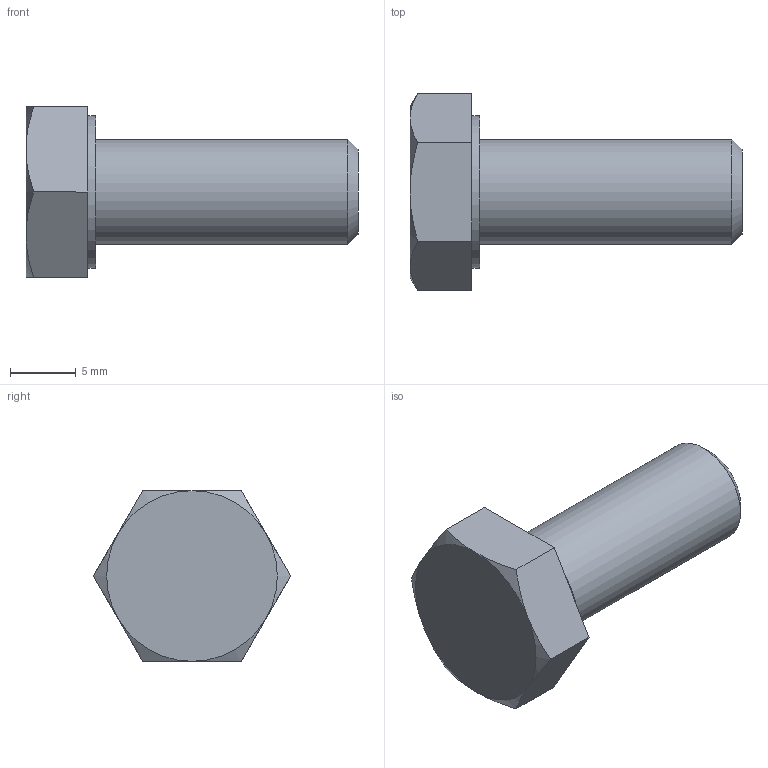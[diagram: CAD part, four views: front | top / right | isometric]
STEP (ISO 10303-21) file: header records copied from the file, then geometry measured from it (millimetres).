
FILE_DESCRIPTION(/* description */ ('6각 머리 볼트 및 6각 머리 나사'),/* implementation_level */ '2;1');
FILE_NAME(/* name */ '',/* time_stamp */ '2025-11-19T16:42:33+09:00',/* author */ ('jhkim'),/* organization */ (''),/* preprocessor_version */ 'ST-DEVELOPER v20.1',/* originating_system */ 'Autodesk Inventor 2026',/* authorisation */ '');
FILE_SCHEMA (('AUTOMOTIVE_DESIGN { 1 0 10303 214 3 1 1 }'));
Length unit declared in the file: millimetre
Products named in the file (1): 6각 머리 볼트 M8x20
Bounding box: 25.3 x 15.01 x 13 mm (x, y, z)
Volume: 1747.6 mm3; surface area: 1010 mm2
Topology: 1 solids, 1 shells, 19 faces, 39 edges, 24 vertices
Faces by surface type: plane 10, cone 7, cylinder 2
Full cylindrical faces by diameter (mm): 8 x1, 11.63 x1
Entity records: 528 total; most frequent: CARTESIAN_POINT 107, DIRECTION 79, ORIENTED_EDGE 78, EDGE_CURVE 39, AXIS2_PLACEMENT_3D 32, VERTEX_POINT 24, EDGE_LOOP 21, FACE_OUTER_BOUND 19
